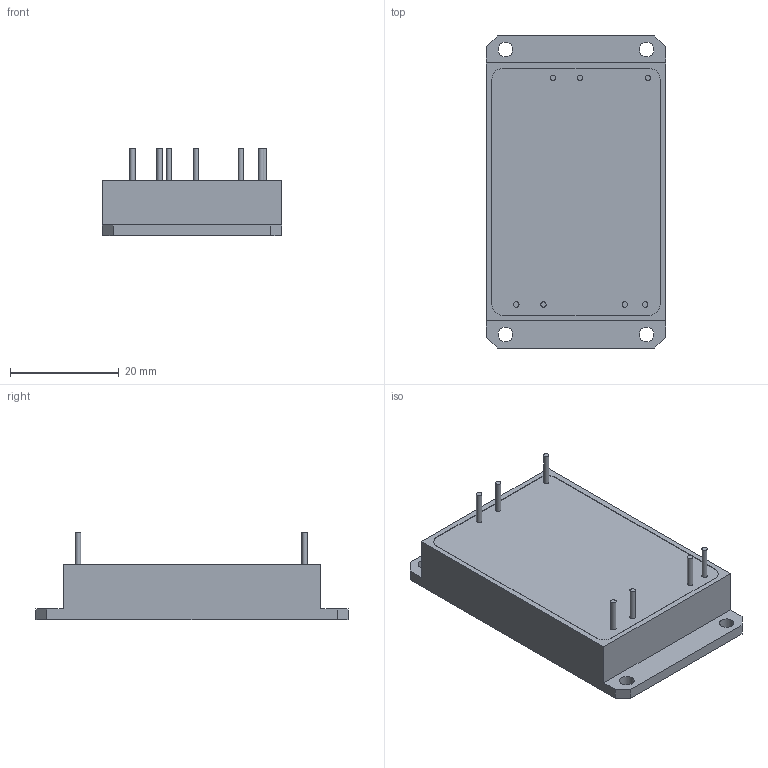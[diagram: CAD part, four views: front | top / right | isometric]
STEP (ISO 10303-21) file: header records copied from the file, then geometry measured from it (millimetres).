
FILE_DESCRIPTION(('STEP AP214'), '1');
FILE_NAME('3U ﾌﾄﾌ20-1(2)ﾓﾏ', '', ('UNSPECIFIED'), ('UNSPECIFIED'), 'C3D Converter', 'C3D Toolkit', '');
FILE_SCHEMA(('AUTOMOTIVE_DESIGN { 1 0 10303 214 3 1 1}'));
Length unit declared in the file: millimetre
Bounding box: 33 x 57.5 x 16.15 mm (x, y, z)
Volume: 16401.2 mm3; surface area: 5614.9 mm2
Topology: 1 solids, 1 shells, 41 faces, 93 edges, 62 vertices
Faces by surface type: plane 26, cylinder 15
Full cylindrical faces by diameter (mm): 1 x7, 2.7 x4
Entity records: 1153 total; most frequent: DIRECTION 196, CARTESIAN_POINT 186, ORIENTED_EDGE 164, EDGE_CURVE 82, AXIS2_PLACEMENT_3D 72, EDGE_LOOP 68, VERTEX_POINT 62, LINE 52
